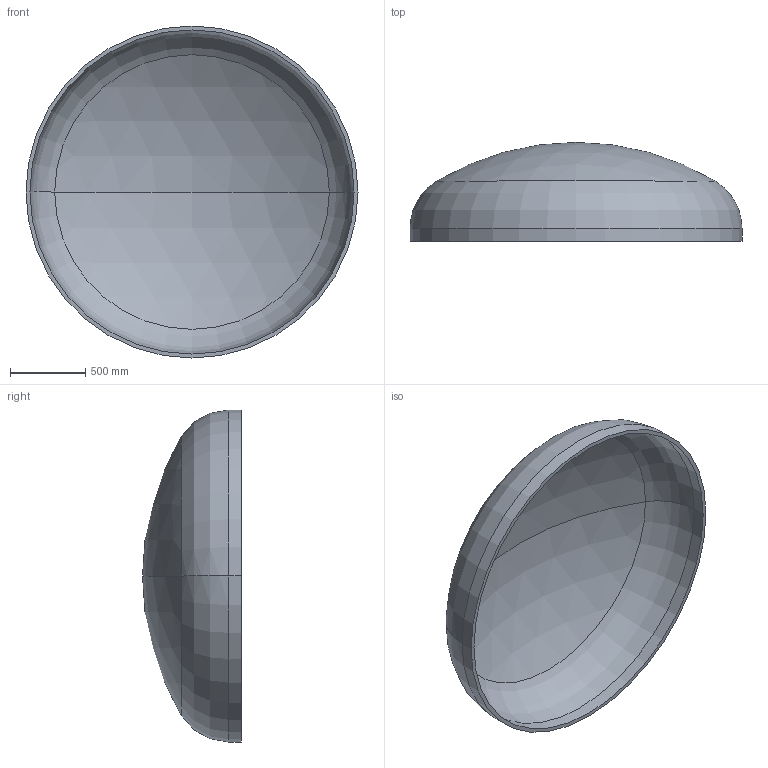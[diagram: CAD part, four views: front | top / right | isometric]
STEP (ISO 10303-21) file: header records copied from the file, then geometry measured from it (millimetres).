
FILE_DESCRIPTION (( 'STEP AP203' ), '1' );
FILE_NAME ('DIN 28013 Korbbogenform_-_Boden DIN 28013 - 2200 x 85 - I - s=26.step', '2016-07-01T14:27:46', ( '' ), ( '' ), 'SwSTEP 2.0', 'SolidWorks 2013', '' );
FILE_SCHEMA (( 'CONFIG_CONTROL_DESIGN' ));
Length unit declared in the file: millimetre
Products named in the file (1): DIN 28013 Korbbogenform_-_Boden DIN 28013 - 2200 x 85 - I - s=26
Bounding box: 2200 x 655.42 x 2200 mm (x, y, z)
Volume: 149949735.9 mm3; surface area: 11713582.2 mm2
Topology: 1 solids, 1 shells, 13 faces, 24 edges, 14 vertices
Faces by surface type: torus 4, cylinder 4, sphere 4, plane 1
Entity records: 407 total; most frequent: DIRECTION 72, CARTESIAN_POINT 52, ORIENTED_EDGE 48, AXIS2_PLACEMENT_3D 34, EDGE_CURVE 24, CIRCLE 20, EDGE_LOOP 14, VERTEX_POINT 14
